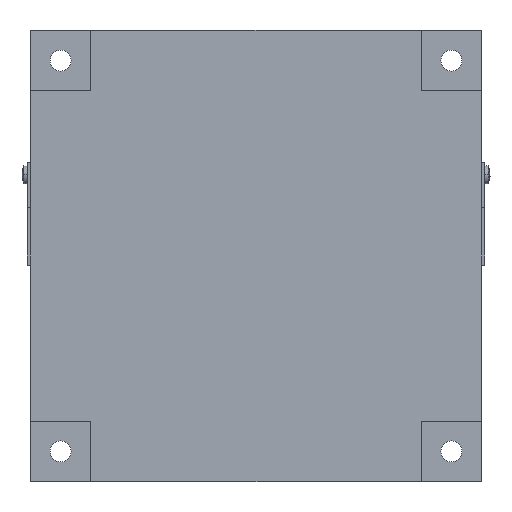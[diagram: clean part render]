
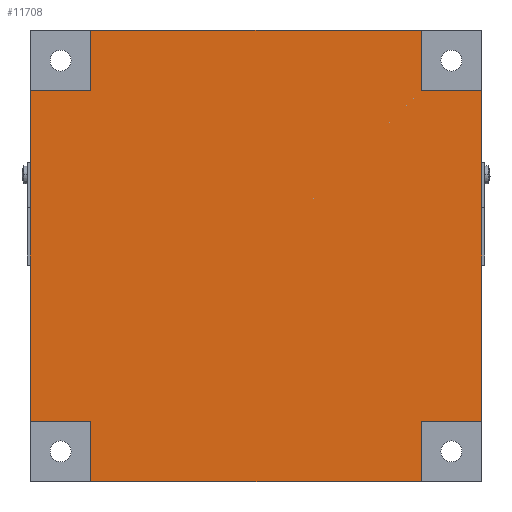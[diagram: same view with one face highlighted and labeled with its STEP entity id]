
A CAD part, front view. The second image highlights one B-rep face of the part: STEP entity #11708.
In plain terms, the highlighted planar face has unit normal (0, -1, 0).
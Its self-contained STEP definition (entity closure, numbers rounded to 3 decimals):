
#1405 = VERTEX_POINT ( 'NONE', #4419 ) ;
#1407 = EDGE_CURVE ( 'NONE', #1405, #1408, #4418, .T. ) ;
#1408 = VERTEX_POINT ( 'NONE', #4414 ) ;
#1476 = VERTEX_POINT ( 'NONE', #4783 ) ;
#1479 = EDGE_CURVE ( 'NONE', #1476, #1480, #4781, .T. ) ;
#1480 = VERTEX_POINT ( 'NONE', #4777 ) ;
#4414 = CARTESIAN_POINT ( 'NONE',  ( -75., 0.5, 55. ) ) ;
#4415 = DIRECTION ( 'NONE',  ( 0., 0., 1. ) ) ;
#4416 = VECTOR ( 'NONE', #4415, 1000. ) ;
#4417 = CARTESIAN_POINT ( 'NONE',  ( -75., 0.5, -55. ) ) ;
#4418 = LINE ( 'NONE', #4417, #4416 ) ;
#4419 = CARTESIAN_POINT ( 'NONE',  ( -75., 0.5, -55. ) ) ;
#4777 = CARTESIAN_POINT ( 'NONE',  ( 55., 0.5, 75. ) ) ;
#4778 = DIRECTION ( 'NONE',  ( 1., 0., 0. ) ) ;
#4779 = VECTOR ( 'NONE', #4778, 1000. ) ;
#4780 = CARTESIAN_POINT ( 'NONE',  ( -55., 0.5, 75. ) ) ;
#4781 = LINE ( 'NONE', #4780, #4779 ) ;
#4783 = CARTESIAN_POINT ( 'NONE',  ( -55., 0.5, 75. ) ) ;
#9975 = VERTEX_POINT ( 'NONE', #17344 ) ;
#10005 = VERTEX_POINT ( 'NONE', #17296 ) ;
#10007 = EDGE_CURVE ( 'NONE', #10005, #9975, #17295, .T. ) ;
#11609 = ORIENTED_EDGE ( 'NONE', *, *, #11610, .F. ) ;
#11610 = EDGE_CURVE ( 'NONE', #11611, #11716, #18560, .T. ) ;
#11611 = VERTEX_POINT ( 'NONE', #18556 ) ;
#11612 = ORIENTED_EDGE ( 'NONE', *, *, #11613, .F. ) ;
#11613 = EDGE_CURVE ( 'NONE', #9975, #11611, #18555, .T. ) ;
#11614 = ORIENTED_EDGE ( 'NONE', *, *, #10007, .F. ) ;
#11615 = ORIENTED_EDGE ( 'NONE', *, *, #11706, .F. ) ;
#11616 = ORIENTED_EDGE ( 'NONE', *, *, #11617, .F. ) ;
#11617 = EDGE_CURVE ( 'NONE', #1480, #11704, #18551, .T. ) ;
#11618 = ORIENTED_EDGE ( 'NONE', *, *, #1479, .F. ) ;
#11704 = VERTEX_POINT ( 'NONE', #18463 ) ;
#11706 = EDGE_CURVE ( 'NONE', #11704, #10005, #18462, .T. ) ;
#11708 = ADVANCED_FACE ( 'NONE', ( #18458 ), #18457, .F. ) ;
#11709 = EDGE_LOOP ( 'NONE', ( #11710, #11714, #11609, #11612, #11614, #11615, #11616, #11618, #11717, #11720, #11722, #11723 ) ) ;
#11710 = ORIENTED_EDGE ( 'NONE', *, *, #11711, .F. ) ;
#11711 = EDGE_CURVE ( 'NONE', #11712, #11713, #18452, .T. ) ;
#11712 = VERTEX_POINT ( 'NONE', #18448 ) ;
#11713 = VERTEX_POINT ( 'NONE', #18447 ) ;
#11714 = ORIENTED_EDGE ( 'NONE', *, *, #11715, .F. ) ;
#11715 = EDGE_CURVE ( 'NONE', #11716, #11712, #18446, .T. ) ;
#11716 = VERTEX_POINT ( 'NONE', #18508 ) ;
#11717 = ORIENTED_EDGE ( 'NONE', *, *, #11718, .F. ) ;
#11718 = EDGE_CURVE ( 'NONE', #11719, #1476, #18507, .T. ) ;
#11719 = VERTEX_POINT ( 'NONE', #18503 ) ;
#11720 = ORIENTED_EDGE ( 'NONE', *, *, #11721, .F. ) ;
#11721 = EDGE_CURVE ( 'NONE', #1408, #11719, #18502, .T. ) ;
#11722 = ORIENTED_EDGE ( 'NONE', *, *, #1407, .F. ) ;
#11723 = ORIENTED_EDGE ( 'NONE', *, *, #11724, .F. ) ;
#11724 = EDGE_CURVE ( 'NONE', #11713, #1405, #18498, .T. ) ;
#17292 = DIRECTION ( 'NONE',  ( 0., 0., -1. ) ) ;
#17293 = VECTOR ( 'NONE', #17292, 1000. ) ;
#17294 = CARTESIAN_POINT ( 'NONE',  ( 75., 0.5, -55. ) ) ;
#17295 = LINE ( 'NONE', #17294, #17293 ) ;
#17296 = CARTESIAN_POINT ( 'NONE',  ( 75., 0.5, 55. ) ) ;
#17344 = CARTESIAN_POINT ( 'NONE',  ( 75., 0.5, -55. ) ) ;
#18446 = LINE ( 'NONE', #18511, #18510 ) ;
#18447 = CARTESIAN_POINT ( 'NONE',  ( -55., 0.5, -55. ) ) ;
#18448 = CARTESIAN_POINT ( 'NONE',  ( -55., 0.5, -75. ) ) ;
#18449 = DIRECTION ( 'NONE',  ( 0., 0., 1. ) ) ;
#18450 = VECTOR ( 'NONE', #18449, 1000. ) ;
#18451 = CARTESIAN_POINT ( 'NONE',  ( -55., 0.5, -75. ) ) ;
#18452 = LINE ( 'NONE', #18451, #18450 ) ;
#18453 = DIRECTION ( 'NONE',  ( 0., 0., 1. ) ) ;
#18454 = DIRECTION ( 'NONE',  ( 0., 1., 0. ) ) ;
#18455 = CARTESIAN_POINT ( 'NONE',  ( -55., 0.5, -55. ) ) ;
#18456 = AXIS2_PLACEMENT_3D ( 'NONE', #18455, #18454, #18453 ) ;
#18457 = PLANE ( 'NONE',  #18456 ) ;
#18458 = FACE_OUTER_BOUND ( 'NONE', #11709, .T. ) ;
#18459 = DIRECTION ( 'NONE',  ( 1., 0., 0. ) ) ;
#18460 = VECTOR ( 'NONE', #18459, 1000. ) ;
#18461 = CARTESIAN_POINT ( 'NONE',  ( 55., 0.5, 55. ) ) ;
#18462 = LINE ( 'NONE', #18461, #18460 ) ;
#18463 = CARTESIAN_POINT ( 'NONE',  ( 55., 0.5, 55. ) ) ;
#18495 = DIRECTION ( 'NONE',  ( -1., 0., 0. ) ) ;
#18496 = VECTOR ( 'NONE', #18495, 1000. ) ;
#18497 = CARTESIAN_POINT ( 'NONE',  ( -75., 0.5, -55. ) ) ;
#18498 = LINE ( 'NONE', #18497, #18496 ) ;
#18499 = DIRECTION ( 'NONE',  ( 1., 0., 0. ) ) ;
#18500 = VECTOR ( 'NONE', #18499, 1000. ) ;
#18501 = CARTESIAN_POINT ( 'NONE',  ( -75., 0.5, 55. ) ) ;
#18502 = LINE ( 'NONE', #18501, #18500 ) ;
#18503 = CARTESIAN_POINT ( 'NONE',  ( -55., 0.5, 55. ) ) ;
#18504 = DIRECTION ( 'NONE',  ( 0., 0., 1. ) ) ;
#18505 = VECTOR ( 'NONE', #18504, 1000. ) ;
#18506 = CARTESIAN_POINT ( 'NONE',  ( -55., 0.5, 55. ) ) ;
#18507 = LINE ( 'NONE', #18506, #18505 ) ;
#18508 = CARTESIAN_POINT ( 'NONE',  ( 55., 0.5, -75. ) ) ;
#18509 = DIRECTION ( 'NONE',  ( -1., 0., 0. ) ) ;
#18510 = VECTOR ( 'NONE', #18509, 1000. ) ;
#18511 = CARTESIAN_POINT ( 'NONE',  ( -55., 0.5, -75. ) ) ;
#18548 = DIRECTION ( 'NONE',  ( 0., 0., -1. ) ) ;
#18549 = VECTOR ( 'NONE', #18548, 1000. ) ;
#18550 = CARTESIAN_POINT ( 'NONE',  ( 55., 0.5, 55. ) ) ;
#18551 = LINE ( 'NONE', #18550, #18549 ) ;
#18552 = DIRECTION ( 'NONE',  ( -1., 0., 0. ) ) ;
#18553 = VECTOR ( 'NONE', #18552, 1000. ) ;
#18554 = CARTESIAN_POINT ( 'NONE',  ( 55., 0.5, -55. ) ) ;
#18555 = LINE ( 'NONE', #18554, #18553 ) ;
#18556 = CARTESIAN_POINT ( 'NONE',  ( 55., 0.5, -55. ) ) ;
#18557 = DIRECTION ( 'NONE',  ( 0., 0., -1. ) ) ;
#18558 = VECTOR ( 'NONE', #18557, 1000. ) ;
#18559 = CARTESIAN_POINT ( 'NONE',  ( 55., 0.5, -75. ) ) ;
#18560 = LINE ( 'NONE', #18559, #18558 ) ;
